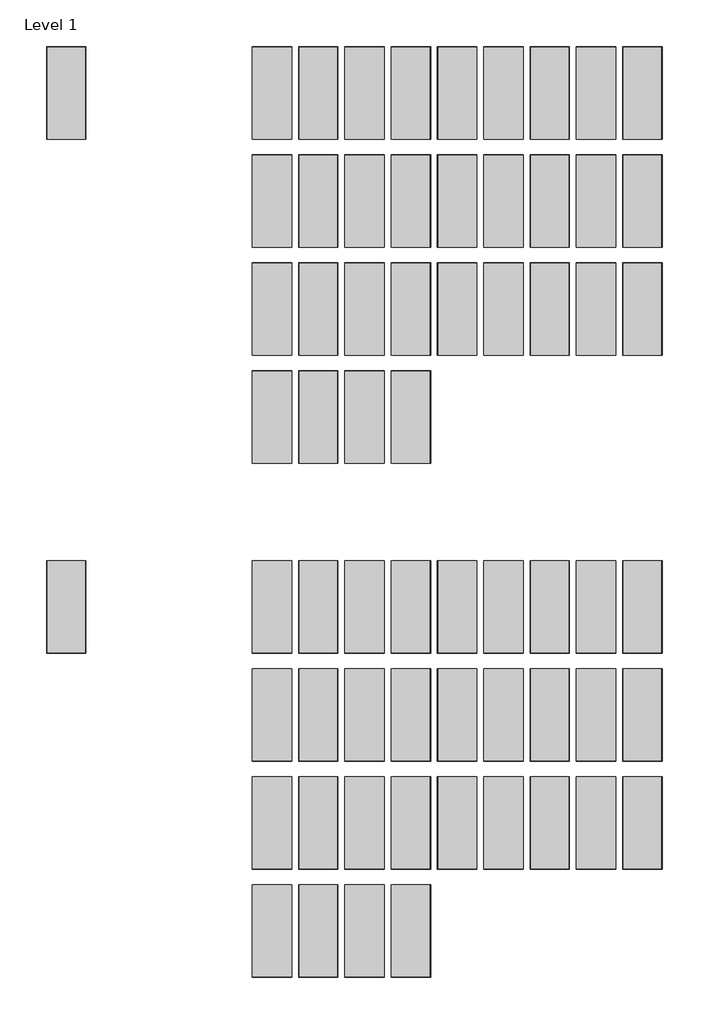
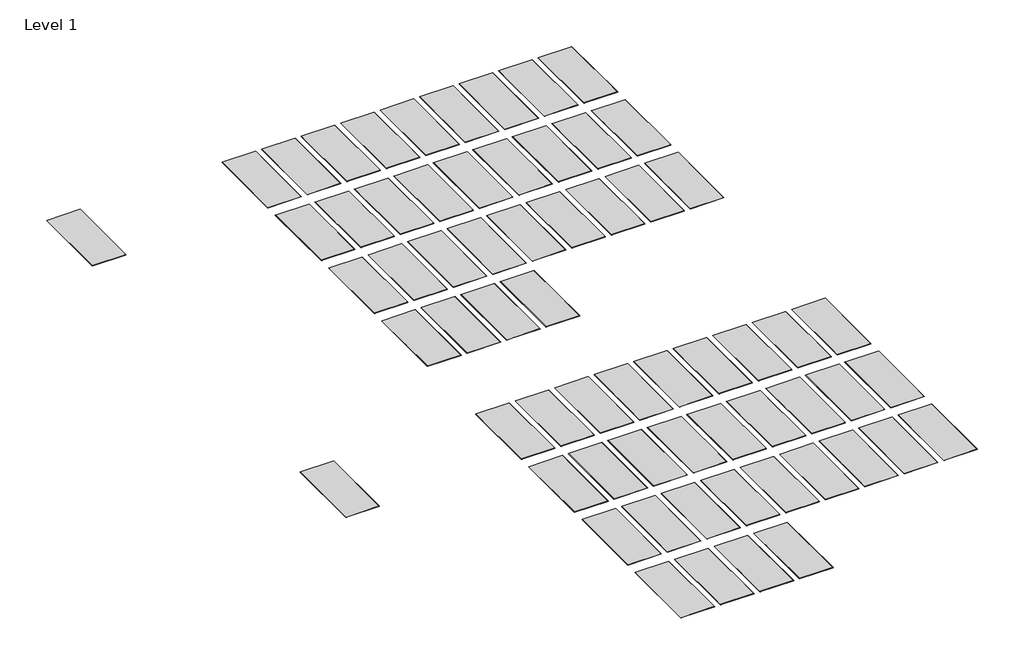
# One storey: 64 proxies.
"""IFC4 building model written with IfcOpenShell, lengths in millimetres."""

from ifc_helpers import new_model, si_unit, origin, place, context, project, spatial, transform, mapped, element, save
from components import specialty_equipment_5309bba6

model = new_model("IFC4")

# Units and contexts
model_context = context("Model", 3, world=origin())
ifc_project = project(units=[si_unit("LENGTHUNIT", "METRE", prefix="MILLI")], contexts=[model_context])

# Site, building, storey
site = spatial("IfcSite", under=ifc_project)
building = spatial("IfcBuilding", under=site)
storey = spatial("IfcBuildingStorey", under=building, Name="Level 1", Elevation=0.0)

# Proxies
placement = place(None, origin())
specialty_equipment_shape = specialty_equipment_5309bba6(model_context)
element("IfcBuildingElementProxy", 1, Name="Wall-Panel-Kirei_USA-EchoLine-Braid_Panels : Braid A - 101 Frost - 12 mm", ObjectType="Wall-Panel-Kirei_USA-EchoLine-Braid_Panels : Braid A - 101 Frost - 12 mm", at=placement, inside=storey, context=model_context, shape_type="MappedRepresentation", body=[
    mapped(specialty_equipment_shape, transform((609.6, -15849.6, 0.0), x_axis=(1.0, 0.0, 0.0), y_axis=(0.0, 1.0, 0.0), z_axis=(0.0, 0.0, 1.0))),
])
element("IfcBuildingElementProxy", 2, Name="Wall-Panel-Kirei_USA-EchoLine-Braid_Panels : Braid A - 101 Frost - 12 mm", ObjectType="Wall-Panel-Kirei_USA-EchoLine-Braid_Panels : Braid A - 101 Frost - 12 mm", at=placement, inside=storey, context=model_context, shape_type="MappedRepresentation", body=[
    mapped(specialty_equipment_shape, transform((-5486.4, -15849.6, 0.0), x_axis=(1.0, 0.0, 0.0), y_axis=(0.0, 1.0, 0.0), z_axis=(0.0, 0.0, 1.0))),
])
element("IfcBuildingElementProxy", 3, Name="Wall-Panel-Kirei_USA-EchoLine-Braid_Panels : Braid A - 108 Sunshine - 12 mm", ObjectType="Wall-Panel-Kirei_USA-EchoLine-Braid_Panels : Braid A - 108 Sunshine - 12 mm", at=placement, inside=storey, context=model_context, shape_type="MappedRepresentation", body=[
    mapped(specialty_equipment_shape, transform((1981.2, -15849.6, 0.0), x_axis=(1.0, 0.0, 0.0), y_axis=(0.0, 1.0, 0.0), z_axis=(0.0, 0.0, 1.0))),
])
element("IfcBuildingElementProxy", 4, Name="Wall-Panel-Kirei_USA-EchoLine-Braid_Panels : Braid A - 124 Ochre - 12 mm", ObjectType="Wall-Panel-Kirei_USA-EchoLine-Braid_Panels : Braid A - 124 Ochre - 12 mm", at=placement, inside=storey, context=model_context, shape_type="MappedRepresentation", body=[
    mapped(specialty_equipment_shape, transform((3352.8, -15849.6, 0.0), x_axis=(1.0, 0.0, 0.0), y_axis=(0.0, 1.0, 0.0), z_axis=(0.0, 0.0, 1.0))),
])
element("IfcBuildingElementProxy", 5, Name="Wall-Panel-Kirei_USA-EchoLine-Braid_Panels : Braid A - 167 Cinnamon - 12 mm", ObjectType="Wall-Panel-Kirei_USA-EchoLine-Braid_Panels : Braid A - 167 Cinnamon - 12 mm", at=placement, inside=storey, context=model_context, shape_type="MappedRepresentation", body=[
    mapped(specialty_equipment_shape, transform((4724.4, -15849.6, 0.0), x_axis=(1.0, 0.0, 0.0), y_axis=(0.0, 1.0, 0.0), z_axis=(0.0, 0.0, 1.0))),
])
element("IfcBuildingElementProxy", 6, Name="Wall-Panel-Kirei_USA-EchoLine-Braid_Panels : Braid A - 193 Rouge - 12 mm", ObjectType="Wall-Panel-Kirei_USA-EchoLine-Braid_Panels : Braid A - 193 Rouge - 12 mm", at=placement, inside=storey, context=model_context, shape_type="MappedRepresentation", body=[
    mapped(specialty_equipment_shape, transform((6096.0, -15849.6, 0.0), x_axis=(1.0, 0.0, 0.0), y_axis=(0.0, 1.0, 0.0), z_axis=(0.0, 0.0, 1.0))),
])
element("IfcBuildingElementProxy", 7, Name="Wall-Panel-Kirei_USA-EchoLine-Braid_Panels : Braid A - 269 Wine - 12 mm", ObjectType="Wall-Panel-Kirei_USA-EchoLine-Braid_Panels : Braid A - 269 Wine - 12 mm", at=placement, inside=storey, context=model_context, shape_type="MappedRepresentation", body=[
    mapped(specialty_equipment_shape, transform((7467.6, -15849.6, 0.0), x_axis=(1.0, 0.0, 0.0), y_axis=(0.0, 1.0, 0.0), z_axis=(0.0, 0.0, 1.0))),
])
element("IfcBuildingElementProxy", 8, Name="Wall-Panel-Kirei_USA-EchoLine-Braid_Panels : Braid A - 274 Orchid - 12 mm", ObjectType="Wall-Panel-Kirei_USA-EchoLine-Braid_Panels : Braid A - 274 Orchid - 12 mm", at=placement, inside=storey, context=model_context, shape_type="MappedRepresentation", body=[
    mapped(specialty_equipment_shape, transform((8839.2, -15849.6, 0.0), x_axis=(1.0, 0.0, 0.0), y_axis=(0.0, 1.0, 0.0), z_axis=(0.0, 0.0, 1.0))),
])
element("IfcBuildingElementProxy", 9, Name="Wall-Panel-Kirei_USA-EchoLine-Braid_Panels : Braid A - 276 Lavender - 12 mm", ObjectType="Wall-Panel-Kirei_USA-EchoLine-Braid_Panels : Braid A - 276 Lavender - 12 mm", at=placement, inside=storey, context=model_context, shape_type="MappedRepresentation", body=[
    mapped(specialty_equipment_shape, transform((10210.8, -15849.6, 0.0), x_axis=(1.0, 0.0, 0.0), y_axis=(0.0, 1.0, 0.0), z_axis=(0.0, 0.0, 1.0))),
])
element("IfcBuildingElementProxy", 10, Name="Wall-Panel-Kirei_USA-EchoLine-Braid_Panels : Braid A - 295 Mandarin - 12 mm", ObjectType="Wall-Panel-Kirei_USA-EchoLine-Braid_Panels : Braid A - 295 Mandarin - 12 mm", at=placement, inside=storey, context=model_context, shape_type="MappedRepresentation", body=[
    mapped(specialty_equipment_shape, transform((11582.4, -15849.6, 0.0), x_axis=(1.0, 0.0, 0.0), y_axis=(0.0, 1.0, 0.0), z_axis=(0.0, 0.0, 1.0))),
])
element("IfcBuildingElementProxy", 11, Name="Wall-Panel-Kirei_USA-EchoLine-Braid_Panels : Braid A - 330 Ivy - 12 mm", ObjectType="Wall-Panel-Kirei_USA-EchoLine-Braid_Panels : Braid A - 330 Ivy - 12 mm", at=placement, inside=storey, context=model_context, shape_type="MappedRepresentation", body=[
    mapped(specialty_equipment_shape, transform((609.6, -19050.0, 0.0), x_axis=(1.0, 0.0, 0.0), y_axis=(0.0, 1.0, 0.0), z_axis=(0.0, 0.0, 1.0))),
])
element("IfcBuildingElementProxy", 12, Name="Wall-Panel-Kirei_USA-EchoLine-Braid_Panels : Braid A - 338 Jade - 12 mm", ObjectType="Wall-Panel-Kirei_USA-EchoLine-Braid_Panels : Braid A - 338 Jade - 12 mm", at=placement, inside=storey, context=model_context, shape_type="MappedRepresentation", body=[
    mapped(specialty_equipment_shape, transform((1981.2, -19050.0, 0.0), x_axis=(1.0, 0.0, 0.0), y_axis=(0.0, 1.0, 0.0), z_axis=(0.0, 0.0, 1.0))),
])
element("IfcBuildingElementProxy", 13, Name="Wall-Panel-Kirei_USA-EchoLine-Braid_Panels : Braid A - 349 Vineyard - 12 mm", ObjectType="Wall-Panel-Kirei_USA-EchoLine-Braid_Panels : Braid A - 349 Vineyard - 12 mm", at=placement, inside=storey, context=model_context, shape_type="MappedRepresentation", body=[
    mapped(specialty_equipment_shape, transform((3352.8, -19050.0, 0.0), x_axis=(1.0, 0.0, 0.0), y_axis=(0.0, 1.0, 0.0), z_axis=(0.0, 0.0, 1.0))),
])
element("IfcBuildingElementProxy", 14, Name="Wall-Panel-Kirei_USA-EchoLine-Braid_Panels : Braid A - 365 Navy - 12 mm", ObjectType="Wall-Panel-Kirei_USA-EchoLine-Braid_Panels : Braid A - 365 Navy - 12 mm", at=placement, inside=storey, context=model_context, shape_type="MappedRepresentation", body=[
    mapped(specialty_equipment_shape, transform((4724.4, -19050.0, 0.0), x_axis=(1.0, 0.0, 0.0), y_axis=(0.0, 1.0, 0.0), z_axis=(0.0, 0.0, 1.0))),
])
element("IfcBuildingElementProxy", 15, Name="Wall-Panel-Kirei_USA-EchoLine-Braid_Panels : Braid A - 381 Lime Splice - 12 mm", ObjectType="Wall-Panel-Kirei_USA-EchoLine-Braid_Panels : Braid A - 381 Lime Splice - 12 mm", at=placement, inside=storey, context=model_context, shape_type="MappedRepresentation", body=[
    mapped(specialty_equipment_shape, transform((6096.0, -19050.0, 0.0), x_axis=(1.0, 0.0, 0.0), y_axis=(0.0, 1.0, 0.0), z_axis=(0.0, 0.0, 1.0))),
])
element("IfcBuildingElementProxy", 16, Name="Wall-Panel-Kirei_USA-EchoLine-Braid_Panels : Braid A - 384 Olive - 12 mm", ObjectType="Wall-Panel-Kirei_USA-EchoLine-Braid_Panels : Braid A - 384 Olive - 12 mm", at=placement, inside=storey, context=model_context, shape_type="MappedRepresentation", body=[
    mapped(specialty_equipment_shape, transform((7467.6, -19050.0, 0.0), x_axis=(1.0, 0.0, 0.0), y_axis=(0.0, 1.0, 0.0), z_axis=(0.0, 0.0, 1.0))),
])
element("IfcBuildingElementProxy", 17, Name="Wall-Panel-Kirei_USA-EchoLine-Braid_Panels : Braid A - 402 Pebble - 12 mm", ObjectType="Wall-Panel-Kirei_USA-EchoLine-Braid_Panels : Braid A - 402 Pebble - 12 mm", at=placement, inside=storey, context=model_context, shape_type="MappedRepresentation", body=[
    mapped(specialty_equipment_shape, transform((8839.2, -19050.0, 0.0), x_axis=(1.0, 0.0, 0.0), y_axis=(0.0, 1.0, 0.0), z_axis=(0.0, 0.0, 1.0))),
])
element("IfcBuildingElementProxy", 18, Name="Wall-Panel-Kirei_USA-EchoLine-Braid_Panels : Braid A - 442 Gray - 12 mm", ObjectType="Wall-Panel-Kirei_USA-EchoLine-Braid_Panels : Braid A - 442 Gray - 12 mm", at=placement, inside=storey, context=model_context, shape_type="MappedRepresentation", body=[
    mapped(specialty_equipment_shape, transform((10210.8, -19050.0, 0.0), x_axis=(1.0, 0.0, 0.0), y_axis=(0.0, 1.0, 0.0), z_axis=(0.0, 0.0, 1.0))),
])
element("IfcBuildingElementProxy", 19, Name="Wall-Panel-Kirei_USA-EchoLine-Braid_Panels : Braid A - 444 Smoke - 12 mm", ObjectType="Wall-Panel-Kirei_USA-EchoLine-Braid_Panels : Braid A - 444 Smoke - 12 mm", at=placement, inside=storey, context=model_context, shape_type="MappedRepresentation", body=[
    mapped(specialty_equipment_shape, transform((11582.4, -19050.0, 0.0), x_axis=(1.0, 0.0, 0.0), y_axis=(0.0, 1.0, 0.0), z_axis=(0.0, 0.0, 1.0))),
])
element("IfcBuildingElementProxy", 20, Name="Wall-Panel-Kirei_USA-EchoLine-Braid_Panels : Braid A - 447 Slate - 12 mm", ObjectType="Wall-Panel-Kirei_USA-EchoLine-Braid_Panels : Braid A - 447 Slate - 12 mm", at=placement, inside=storey, context=model_context, shape_type="MappedRepresentation", body=[
    mapped(specialty_equipment_shape, transform((609.6, -22250.4, 0.0), x_axis=(1.0, 0.0, 0.0), y_axis=(0.0, 1.0, 0.0), z_axis=(0.0, 0.0, 1.0))),
])
element("IfcBuildingElementProxy", 21, Name="Wall-Panel-Kirei_USA-EchoLine-Braid_Panels : Braid A - 454 Mushroom - 12 mm", ObjectType="Wall-Panel-Kirei_USA-EchoLine-Braid_Panels : Braid A - 454 Mushroom - 12 mm", at=placement, inside=storey, context=model_context, shape_type="MappedRepresentation", body=[
    mapped(specialty_equipment_shape, transform((1981.2, -22250.4, 0.0), x_axis=(1.0, 0.0, 0.0), y_axis=(0.0, 1.0, 0.0), z_axis=(0.0, 0.0, 1.0))),
])
element("IfcBuildingElementProxy", 22, Name="Wall-Panel-Kirei_USA-EchoLine-Braid_Panels : Braid A - 468 Vanilla - 12 mm", ObjectType="Wall-Panel-Kirei_USA-EchoLine-Braid_Panels : Braid A - 468 Vanilla - 12 mm", at=placement, inside=storey, context=model_context, shape_type="MappedRepresentation", body=[
    mapped(specialty_equipment_shape, transform((3352.8, -22250.4, 0.0), x_axis=(1.0, 0.0, 0.0), y_axis=(0.0, 1.0, 0.0), z_axis=(0.0, 0.0, 1.0))),
])
element("IfcBuildingElementProxy", 23, Name="Wall-Panel-Kirei_USA-EchoLine-Braid_Panels : Braid A - 487 Blush - 12 mm", ObjectType="Wall-Panel-Kirei_USA-EchoLine-Braid_Panels : Braid A - 487 Blush - 12 mm", at=placement, inside=storey, context=model_context, shape_type="MappedRepresentation", body=[
    mapped(specialty_equipment_shape, transform((4724.4, -22250.4, 0.0), x_axis=(1.0, 0.0, 0.0), y_axis=(0.0, 1.0, 0.0), z_axis=(0.0, 0.0, 1.0))),
])
element("IfcBuildingElementProxy", 24, Name="Wall-Panel-Kirei_USA-EchoLine-Braid_Panels : Braid A - 500 White - 12 mm", ObjectType="Wall-Panel-Kirei_USA-EchoLine-Braid_Panels : Braid A - 500 White - 12 mm", at=placement, inside=storey, context=model_context, shape_type="MappedRepresentation", body=[
    mapped(specialty_equipment_shape, transform((6096.0, -22250.4, 0.0), x_axis=(1.0, 0.0, 0.0), y_axis=(0.0, 1.0, 0.0), z_axis=(0.0, 0.0, 1.0))),
])
element("IfcBuildingElementProxy", 25, Name="Wall-Panel-Kirei_USA-EchoLine-Braid_Panels : Braid A - 542 Black - 12 mm", ObjectType="Wall-Panel-Kirei_USA-EchoLine-Braid_Panels : Braid A - 542 Black - 12 mm", at=placement, inside=storey, context=model_context, shape_type="MappedRepresentation", body=[
    mapped(specialty_equipment_shape, transform((7467.6, -22250.4, 0.0), x_axis=(1.0, 0.0, 0.0), y_axis=(0.0, 1.0, 0.0), z_axis=(0.0, 0.0, 1.0))),
])
element("IfcBuildingElementProxy", 26, Name="Wall-Panel-Kirei_USA-EchoLine-Braid_Panels : Braid A - 550 Onyx - 12 mm", ObjectType="Wall-Panel-Kirei_USA-EchoLine-Braid_Panels : Braid A - 550 Onyx - 12 mm", at=placement, inside=storey, context=model_context, shape_type="MappedRepresentation", body=[
    mapped(specialty_equipment_shape, transform((8839.2, -22250.4, 0.0), x_axis=(1.0, 0.0, 0.0), y_axis=(0.0, 1.0, 0.0), z_axis=(0.0, 0.0, 1.0))),
])
element("IfcBuildingElementProxy", 27, Name="Wall-Panel-Kirei_USA-EchoLine-Braid_Panels : Braid A - 551 Duck Egg - 12 mm", ObjectType="Wall-Panel-Kirei_USA-EchoLine-Braid_Panels : Braid A - 551 Duck Egg - 12 mm", at=placement, inside=storey, context=model_context, shape_type="MappedRepresentation", body=[
    mapped(specialty_equipment_shape, transform((10210.8, -22250.4, 0.0), x_axis=(1.0, 0.0, 0.0), y_axis=(0.0, 1.0, 0.0), z_axis=(0.0, 0.0, 1.0))),
])
element("IfcBuildingElementProxy", 28, Name="Wall-Panel-Kirei_USA-EchoLine-Braid_Panels : Braid A - 579 Pistachio - 12 mm", ObjectType="Wall-Panel-Kirei_USA-EchoLine-Braid_Panels : Braid A - 579 Pistachio - 12 mm", at=placement, inside=storey, context=model_context, shape_type="MappedRepresentation", body=[
    mapped(specialty_equipment_shape, transform((11582.4, -22250.4, 0.0), x_axis=(1.0, 0.0, 0.0), y_axis=(0.0, 1.0, 0.0), z_axis=(0.0, 0.0, 1.0))),
])
element("IfcBuildingElementProxy", 29, Name="Wall-Panel-Kirei_USA-EchoLine-Braid_Panels : Braid A - 580 Sage - 12 mm", ObjectType="Wall-Panel-Kirei_USA-EchoLine-Braid_Panels : Braid A - 580 Sage - 12 mm", at=placement, inside=storey, context=model_context, shape_type="MappedRepresentation", body=[
    mapped(specialty_equipment_shape, transform((609.6, -25450.8, 0.0), x_axis=(1.0, 0.0, 0.0), y_axis=(0.0, 1.0, 0.0), z_axis=(0.0, 0.0, 1.0))),
])
element("IfcBuildingElementProxy", 30, Name="Wall-Panel-Kirei_USA-EchoLine-Braid_Panels : Braid A - 633 Pacific - 12 mm", ObjectType="Wall-Panel-Kirei_USA-EchoLine-Braid_Panels : Braid A - 633 Pacific - 12 mm", at=placement, inside=storey, context=model_context, shape_type="MappedRepresentation", body=[
    mapped(specialty_equipment_shape, transform((1981.2, -25450.8, 0.0), x_axis=(1.0, 0.0, 0.0), y_axis=(0.0, 1.0, 0.0), z_axis=(0.0, 0.0, 1.0))),
])
element("IfcBuildingElementProxy", 31, Name="Wall-Panel-Kirei_USA-EchoLine-Braid_Panels : Braid A - 660 Coronet - 12 mm", ObjectType="Wall-Panel-Kirei_USA-EchoLine-Braid_Panels : Braid A - 660 Coronet - 12 mm", at=placement, inside=storey, context=model_context, shape_type="MappedRepresentation", body=[
    mapped(specialty_equipment_shape, transform((3352.8, -25450.8, 0.0), x_axis=(1.0, 0.0, 0.0), y_axis=(0.0, 1.0, 0.0), z_axis=(0.0, 0.0, 1.0))),
])
element("IfcBuildingElementProxy", 32, Name="Wall-Panel-Kirei_USA-EchoLine-Braid_Panels : Braid A - 908 Cream - 12 mm", ObjectType="Wall-Panel-Kirei_USA-EchoLine-Braid_Panels : Braid A - 908 Cream - 12 mm", at=placement, inside=storey, context=model_context, shape_type="MappedRepresentation", body=[
    mapped(specialty_equipment_shape, transform((4724.4, -25450.8, 0.0), x_axis=(1.0, 0.0, 0.0), y_axis=(0.0, 1.0, 0.0), z_axis=(0.0, 0.0, 1.0))),
])
element("IfcBuildingElementProxy", 33, Name="Wall-Panel-Kirei_USA-EchoLine-Braid_Panels : Braid B - 101 Frost - 12 mm", ObjectType="Wall-Panel-Kirei_USA-EchoLine-Braid_Panels : Braid B - 101 Frost - 12 mm", at=placement, inside=storey, context=model_context, shape_type="MappedRepresentation", body=[
    mapped(specialty_equipment_shape, transform((609.6, -31089.6, 0.0), x_axis=(1.0, 0.0, 0.0), y_axis=(0.0, 1.0, 0.0), z_axis=(0.0, 0.0, 1.0))),
])
element("IfcBuildingElementProxy", 34, Name="Wall-Panel-Kirei_USA-EchoLine-Braid_Panels : Braid B - 101 Frost - 12 mm", ObjectType="Wall-Panel-Kirei_USA-EchoLine-Braid_Panels : Braid B - 101 Frost - 12 mm", at=placement, inside=storey, context=model_context, shape_type="MappedRepresentation", body=[
    mapped(specialty_equipment_shape, transform((-5486.4, -31089.6, 0.0), x_axis=(1.0, 0.0, 0.0), y_axis=(0.0, 1.0, 0.0), z_axis=(0.0, 0.0, 1.0))),
])
element("IfcBuildingElementProxy", 35, Name="Wall-Panel-Kirei_USA-EchoLine-Braid_Panels : Braid B - 108 Sunshine - 12 mm", ObjectType="Wall-Panel-Kirei_USA-EchoLine-Braid_Panels : Braid B - 108 Sunshine - 12 mm", at=placement, inside=storey, context=model_context, shape_type="MappedRepresentation", body=[
    mapped(specialty_equipment_shape, transform((1981.2, -31089.6, 0.0), x_axis=(1.0, 0.0, 0.0), y_axis=(0.0, 1.0, 0.0), z_axis=(0.0, 0.0, 1.0))),
])
element("IfcBuildingElementProxy", 36, Name="Wall-Panel-Kirei_USA-EchoLine-Braid_Panels : Braid B - 124 Ochre - 12 mm", ObjectType="Wall-Panel-Kirei_USA-EchoLine-Braid_Panels : Braid B - 124 Ochre - 12 mm", at=placement, inside=storey, context=model_context, shape_type="MappedRepresentation", body=[
    mapped(specialty_equipment_shape, transform((3352.8, -31089.6, 0.0), x_axis=(1.0, 0.0, 0.0), y_axis=(0.0, 1.0, 0.0), z_axis=(0.0, 0.0, 1.0))),
])
element("IfcBuildingElementProxy", 37, Name="Wall-Panel-Kirei_USA-EchoLine-Braid_Panels : Braid B - 167 Cinnamon - 12 mm", ObjectType="Wall-Panel-Kirei_USA-EchoLine-Braid_Panels : Braid B - 167 Cinnamon - 12 mm", at=placement, inside=storey, context=model_context, shape_type="MappedRepresentation", body=[
    mapped(specialty_equipment_shape, transform((4724.4, -31089.6, 0.0), x_axis=(1.0, 0.0, 0.0), y_axis=(0.0, 1.0, 0.0), z_axis=(0.0, 0.0, 1.0))),
])
element("IfcBuildingElementProxy", 38, Name="Wall-Panel-Kirei_USA-EchoLine-Braid_Panels : Braid B - 193 Rouge - 12 mm", ObjectType="Wall-Panel-Kirei_USA-EchoLine-Braid_Panels : Braid B - 193 Rouge - 12 mm", at=placement, inside=storey, context=model_context, shape_type="MappedRepresentation", body=[
    mapped(specialty_equipment_shape, transform((6096.0, -31089.6, 0.0), x_axis=(1.0, 0.0, 0.0), y_axis=(0.0, 1.0, 0.0), z_axis=(0.0, 0.0, 1.0))),
])
element("IfcBuildingElementProxy", 39, Name="Wall-Panel-Kirei_USA-EchoLine-Braid_Panels : Braid B - 269 Wine - 12 mm", ObjectType="Wall-Panel-Kirei_USA-EchoLine-Braid_Panels : Braid B - 269 Wine - 12 mm", at=placement, inside=storey, context=model_context, shape_type="MappedRepresentation", body=[
    mapped(specialty_equipment_shape, transform((7467.6, -31089.6, 0.0), x_axis=(1.0, 0.0, 0.0), y_axis=(0.0, 1.0, 0.0), z_axis=(0.0, 0.0, 1.0))),
])
element("IfcBuildingElementProxy", 40, Name="Wall-Panel-Kirei_USA-EchoLine-Braid_Panels : Braid B - 274 Orchid - 12 mm", ObjectType="Wall-Panel-Kirei_USA-EchoLine-Braid_Panels : Braid B - 274 Orchid - 12 mm", at=placement, inside=storey, context=model_context, shape_type="MappedRepresentation", body=[
    mapped(specialty_equipment_shape, transform((8839.2, -31089.6, 0.0), x_axis=(1.0, 0.0, 0.0), y_axis=(0.0, 1.0, 0.0), z_axis=(0.0, 0.0, 1.0))),
])
element("IfcBuildingElementProxy", 41, Name="Wall-Panel-Kirei_USA-EchoLine-Braid_Panels : Braid B - 276 Lavender - 12 mm", ObjectType="Wall-Panel-Kirei_USA-EchoLine-Braid_Panels : Braid B - 276 Lavender - 12 mm", at=placement, inside=storey, context=model_context, shape_type="MappedRepresentation", body=[
    mapped(specialty_equipment_shape, transform((10210.8, -31089.6, 0.0), x_axis=(1.0, 0.0, 0.0), y_axis=(0.0, 1.0, 0.0), z_axis=(0.0, 0.0, 1.0))),
])
element("IfcBuildingElementProxy", 42, Name="Wall-Panel-Kirei_USA-EchoLine-Braid_Panels : Braid B - 295 Mandarin - 12 mm", ObjectType="Wall-Panel-Kirei_USA-EchoLine-Braid_Panels : Braid B - 295 Mandarin - 12 mm", at=placement, inside=storey, context=model_context, shape_type="MappedRepresentation", body=[
    mapped(specialty_equipment_shape, transform((11582.4, -31089.6, 0.0), x_axis=(1.0, 0.0, 0.0), y_axis=(0.0, 1.0, 0.0), z_axis=(0.0, 0.0, 1.0))),
])
element("IfcBuildingElementProxy", 43, Name="Wall-Panel-Kirei_USA-EchoLine-Braid_Panels : Braid B - 330 Ivy - 12 mm", ObjectType="Wall-Panel-Kirei_USA-EchoLine-Braid_Panels : Braid B - 330 Ivy - 12 mm", at=placement, inside=storey, context=model_context, shape_type="MappedRepresentation", body=[
    mapped(specialty_equipment_shape, transform((609.6, -34290.0, 0.0), x_axis=(1.0, 0.0, 0.0), y_axis=(0.0, 1.0, 0.0), z_axis=(0.0, 0.0, 1.0))),
])
element("IfcBuildingElementProxy", 44, Name="Wall-Panel-Kirei_USA-EchoLine-Braid_Panels : Braid B - 338 Jade - 12 mm", ObjectType="Wall-Panel-Kirei_USA-EchoLine-Braid_Panels : Braid B - 338 Jade - 12 mm", at=placement, inside=storey, context=model_context, shape_type="MappedRepresentation", body=[
    mapped(specialty_equipment_shape, transform((1981.2, -34290.0, 0.0), x_axis=(1.0, 0.0, 0.0), y_axis=(0.0, 1.0, 0.0), z_axis=(0.0, 0.0, 1.0))),
])
element("IfcBuildingElementProxy", 45, Name="Wall-Panel-Kirei_USA-EchoLine-Braid_Panels : Braid B - 349 Vineyard - 12 mm", ObjectType="Wall-Panel-Kirei_USA-EchoLine-Braid_Panels : Braid B - 349 Vineyard - 12 mm", at=placement, inside=storey, context=model_context, shape_type="MappedRepresentation", body=[
    mapped(specialty_equipment_shape, transform((3352.8, -34290.0, 0.0), x_axis=(1.0, 0.0, 0.0), y_axis=(0.0, 1.0, 0.0), z_axis=(0.0, 0.0, 1.0))),
])
element("IfcBuildingElementProxy", 46, Name="Wall-Panel-Kirei_USA-EchoLine-Braid_Panels : Braid B - 365 Navy - 12 mm", ObjectType="Wall-Panel-Kirei_USA-EchoLine-Braid_Panels : Braid B - 365 Navy - 12 mm", at=placement, inside=storey, context=model_context, shape_type="MappedRepresentation", body=[
    mapped(specialty_equipment_shape, transform((4724.4, -34290.0, 0.0), x_axis=(1.0, 0.0, 0.0), y_axis=(0.0, 1.0, 0.0), z_axis=(0.0, 0.0, 1.0))),
])
element("IfcBuildingElementProxy", 47, Name="Wall-Panel-Kirei_USA-EchoLine-Braid_Panels : Braid B - 381 Lime Splice - 12 mm", ObjectType="Wall-Panel-Kirei_USA-EchoLine-Braid_Panels : Braid B - 381 Lime Splice - 12 mm", at=placement, inside=storey, context=model_context, shape_type="MappedRepresentation", body=[
    mapped(specialty_equipment_shape, transform((6096.0, -34290.0, 0.0), x_axis=(1.0, 0.0, 0.0), y_axis=(0.0, 1.0, 0.0), z_axis=(0.0, 0.0, 1.0))),
])
element("IfcBuildingElementProxy", 48, Name="Wall-Panel-Kirei_USA-EchoLine-Braid_Panels : Braid B - 384 Olive - 12 mm", ObjectType="Wall-Panel-Kirei_USA-EchoLine-Braid_Panels : Braid B - 384 Olive - 12 mm", at=placement, inside=storey, context=model_context, shape_type="MappedRepresentation", body=[
    mapped(specialty_equipment_shape, transform((7467.6, -34290.0, 0.0), x_axis=(1.0, 0.0, 0.0), y_axis=(0.0, 1.0, 0.0), z_axis=(0.0, 0.0, 1.0))),
])
element("IfcBuildingElementProxy", 49, Name="Wall-Panel-Kirei_USA-EchoLine-Braid_Panels : Braid B - 402 Pebble - 12 mm", ObjectType="Wall-Panel-Kirei_USA-EchoLine-Braid_Panels : Braid B - 402 Pebble - 12 mm", at=placement, inside=storey, context=model_context, shape_type="MappedRepresentation", body=[
    mapped(specialty_equipment_shape, transform((8839.2, -34290.0, 0.0), x_axis=(1.0, 0.0, 0.0), y_axis=(0.0, 1.0, 0.0), z_axis=(0.0, 0.0, 1.0))),
])
element("IfcBuildingElementProxy", 50, Name="Wall-Panel-Kirei_USA-EchoLine-Braid_Panels : Braid B - 442 Gray - 12 mm", ObjectType="Wall-Panel-Kirei_USA-EchoLine-Braid_Panels : Braid B - 442 Gray - 12 mm", at=placement, inside=storey, context=model_context, shape_type="MappedRepresentation", body=[
    mapped(specialty_equipment_shape, transform((10210.8, -34290.0, 0.0), x_axis=(1.0, 0.0, 0.0), y_axis=(0.0, 1.0, 0.0), z_axis=(0.0, 0.0, 1.0))),
])
element("IfcBuildingElementProxy", 51, Name="Wall-Panel-Kirei_USA-EchoLine-Braid_Panels : Braid B - 444 Smoke - 12 mm", ObjectType="Wall-Panel-Kirei_USA-EchoLine-Braid_Panels : Braid B - 444 Smoke - 12 mm", at=placement, inside=storey, context=model_context, shape_type="MappedRepresentation", body=[
    mapped(specialty_equipment_shape, transform((11582.4, -34290.0, 0.0), x_axis=(1.0, 0.0, 0.0), y_axis=(0.0, 1.0, 0.0), z_axis=(0.0, 0.0, 1.0))),
])
element("IfcBuildingElementProxy", 52, Name="Wall-Panel-Kirei_USA-EchoLine-Braid_Panels : Braid B - 447 Slate - 12 mm", ObjectType="Wall-Panel-Kirei_USA-EchoLine-Braid_Panels : Braid B - 447 Slate - 12 mm", at=placement, inside=storey, context=model_context, shape_type="MappedRepresentation", body=[
    mapped(specialty_equipment_shape, transform((609.6, -37490.4, 0.0), x_axis=(1.0, 0.0, 0.0), y_axis=(0.0, 1.0, 0.0), z_axis=(0.0, 0.0, 1.0))),
])
element("IfcBuildingElementProxy", 53, Name="Wall-Panel-Kirei_USA-EchoLine-Braid_Panels : Braid B - 454 Mushroom - 12 mm", ObjectType="Wall-Panel-Kirei_USA-EchoLine-Braid_Panels : Braid B - 454 Mushroom - 12 mm", at=placement, inside=storey, context=model_context, shape_type="MappedRepresentation", body=[
    mapped(specialty_equipment_shape, transform((1981.2, -37490.4, 0.0), x_axis=(1.0, 0.0, 0.0), y_axis=(0.0, 1.0, 0.0), z_axis=(0.0, 0.0, 1.0))),
])
element("IfcBuildingElementProxy", 54, Name="Wall-Panel-Kirei_USA-EchoLine-Braid_Panels : Braid B - 468 Vanilla - 12 mm", ObjectType="Wall-Panel-Kirei_USA-EchoLine-Braid_Panels : Braid B - 468 Vanilla - 12 mm", at=placement, inside=storey, context=model_context, shape_type="MappedRepresentation", body=[
    mapped(specialty_equipment_shape, transform((3352.8, -37490.4, 0.0), x_axis=(1.0, 0.0, 0.0), y_axis=(0.0, 1.0, 0.0), z_axis=(0.0, 0.0, 1.0))),
])
element("IfcBuildingElementProxy", 55, Name="Wall-Panel-Kirei_USA-EchoLine-Braid_Panels : Braid B - 487 Blush - 12 mm", ObjectType="Wall-Panel-Kirei_USA-EchoLine-Braid_Panels : Braid B - 487 Blush - 12 mm", at=placement, inside=storey, context=model_context, shape_type="MappedRepresentation", body=[
    mapped(specialty_equipment_shape, transform((4724.4, -37490.4, 0.0), x_axis=(1.0, 0.0, 0.0), y_axis=(0.0, 1.0, 0.0), z_axis=(0.0, 0.0, 1.0))),
])
element("IfcBuildingElementProxy", 56, Name="Wall-Panel-Kirei_USA-EchoLine-Braid_Panels : Braid B - 500 White - 12 mm", ObjectType="Wall-Panel-Kirei_USA-EchoLine-Braid_Panels : Braid B - 500 White - 12 mm", at=placement, inside=storey, context=model_context, shape_type="MappedRepresentation", body=[
    mapped(specialty_equipment_shape, transform((6096.0, -37490.4, 0.0), x_axis=(1.0, 0.0, 0.0), y_axis=(0.0, 1.0, 0.0), z_axis=(0.0, 0.0, 1.0))),
])
element("IfcBuildingElementProxy", 57, Name="Wall-Panel-Kirei_USA-EchoLine-Braid_Panels : Braid B - 542 Black - 12 mm", ObjectType="Wall-Panel-Kirei_USA-EchoLine-Braid_Panels : Braid B - 542 Black - 12 mm", at=placement, inside=storey, context=model_context, shape_type="MappedRepresentation", body=[
    mapped(specialty_equipment_shape, transform((7467.6, -37490.4, 0.0), x_axis=(1.0, 0.0, 0.0), y_axis=(0.0, 1.0, 0.0), z_axis=(0.0, 0.0, 1.0))),
])
element("IfcBuildingElementProxy", 58, Name="Wall-Panel-Kirei_USA-EchoLine-Braid_Panels : Braid B - 550 Onyx - 12 mm", ObjectType="Wall-Panel-Kirei_USA-EchoLine-Braid_Panels : Braid B - 550 Onyx - 12 mm", at=placement, inside=storey, context=model_context, shape_type="MappedRepresentation", body=[
    mapped(specialty_equipment_shape, transform((8839.2, -37490.4, 0.0), x_axis=(1.0, 0.0, 0.0), y_axis=(0.0, 1.0, 0.0), z_axis=(0.0, 0.0, 1.0))),
])
element("IfcBuildingElementProxy", 59, Name="Wall-Panel-Kirei_USA-EchoLine-Braid_Panels : Braid B - 551 Duck Egg - 12 mm", ObjectType="Wall-Panel-Kirei_USA-EchoLine-Braid_Panels : Braid B - 551 Duck Egg - 12 mm", at=placement, inside=storey, context=model_context, shape_type="MappedRepresentation", body=[
    mapped(specialty_equipment_shape, transform((10210.8, -37490.4, 0.0), x_axis=(1.0, 0.0, 0.0), y_axis=(0.0, 1.0, 0.0), z_axis=(0.0, 0.0, 1.0))),
])
element("IfcBuildingElementProxy", 60, Name="Wall-Panel-Kirei_USA-EchoLine-Braid_Panels : Braid B - 579 Pistachio - 12 mm", ObjectType="Wall-Panel-Kirei_USA-EchoLine-Braid_Panels : Braid B - 579 Pistachio - 12 mm", at=placement, inside=storey, context=model_context, shape_type="MappedRepresentation", body=[
    mapped(specialty_equipment_shape, transform((11582.4, -37490.4, 0.0), x_axis=(1.0, 0.0, 0.0), y_axis=(0.0, 1.0, 0.0), z_axis=(0.0, 0.0, 1.0))),
])
element("IfcBuildingElementProxy", 61, Name="Wall-Panel-Kirei_USA-EchoLine-Braid_Panels : Braid B - 580 Sage - 12 mm", ObjectType="Wall-Panel-Kirei_USA-EchoLine-Braid_Panels : Braid B - 580 Sage - 12 mm", at=placement, inside=storey, context=model_context, shape_type="MappedRepresentation", body=[
    mapped(specialty_equipment_shape, transform((609.6, -40690.8, 0.0), x_axis=(1.0, 0.0, 0.0), y_axis=(0.0, 1.0, 0.0), z_axis=(0.0, 0.0, 1.0))),
])
element("IfcBuildingElementProxy", 62, Name="Wall-Panel-Kirei_USA-EchoLine-Braid_Panels : Braid B - 633 Pacific - 12 mm", ObjectType="Wall-Panel-Kirei_USA-EchoLine-Braid_Panels : Braid B - 633 Pacific - 12 mm", at=placement, inside=storey, context=model_context, shape_type="MappedRepresentation", body=[
    mapped(specialty_equipment_shape, transform((1981.2, -40690.8, 0.0), x_axis=(1.0, 0.0, 0.0), y_axis=(0.0, 1.0, 0.0), z_axis=(0.0, 0.0, 1.0))),
])
element("IfcBuildingElementProxy", 63, Name="Wall-Panel-Kirei_USA-EchoLine-Braid_Panels : Braid B - 660 Coronet - 12 mm", ObjectType="Wall-Panel-Kirei_USA-EchoLine-Braid_Panels : Braid B - 660 Coronet - 12 mm", at=placement, inside=storey, context=model_context, shape_type="MappedRepresentation", body=[
    mapped(specialty_equipment_shape, transform((3352.8, -40690.8, 0.0), x_axis=(1.0, 0.0, 0.0), y_axis=(0.0, 1.0, 0.0), z_axis=(0.0, 0.0, 1.0))),
])
element("IfcBuildingElementProxy", 64, Name="Wall-Panel-Kirei_USA-EchoLine-Braid_Panels : Braid B - 908 Cream - 12 mm", ObjectType="Wall-Panel-Kirei_USA-EchoLine-Braid_Panels : Braid B - 908 Cream - 12 mm", at=placement, inside=storey, context=model_context, shape_type="MappedRepresentation", body=[
    mapped(specialty_equipment_shape, transform((4724.4, -40690.8, 0.0), x_axis=(1.0, 0.0, 0.0), y_axis=(0.0, 1.0, 0.0), z_axis=(0.0, 0.0, 1.0))),
])

save(model, "model.ifc")
